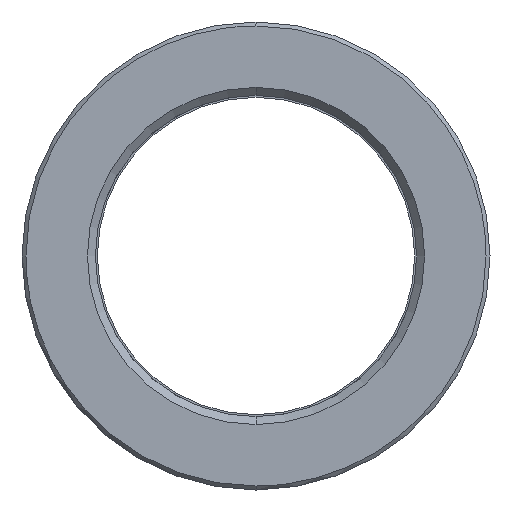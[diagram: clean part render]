
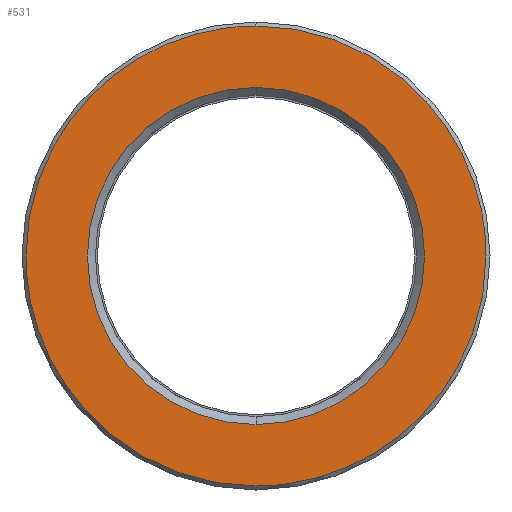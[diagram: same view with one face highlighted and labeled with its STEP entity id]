
A CAD part, left-side view. The second image highlights one B-rep face of the part: STEP entity #531.
In plain terms, the highlighted planar face has unit normal (-1, 0, 0).
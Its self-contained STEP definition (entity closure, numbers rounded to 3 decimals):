
#311=CARTESIAN_POINT('Axis2P3D Location',(0.,0.,0.)) ;
#315=CARTESIAN_POINT('Vertex',(0.,21.25,0.)) ;
#317=CARTESIAN_POINT('Vertex',(0.,0.,21.25)) ;
#320=CARTESIAN_POINT('Axis2P3D Location',(0.,0.,0.)) ;
#324=CARTESIAN_POINT('Vertex',(0.,0.,-21.25)) ;
#351=CARTESIAN_POINT('Axis2P3D Location',(0.,0.,0.)) ;
#355=CARTESIAN_POINT('Vertex',(0.,-21.25,0.)) ;
#358=CARTESIAN_POINT('Axis2P3D Location',(0.,0.,0.)) ;
#438=CARTESIAN_POINT('Axis2P3D Location',(0.,29.,0.)) ;
#444=CARTESIAN_POINT('Control Point',(0.,0.,-29.)) ;
#445=CARTESIAN_POINT('Control Point',(0.,1.442,-29.)) ;
#446=CARTESIAN_POINT('Control Point',(0.,2.884,-28.91)) ;
#447=CARTESIAN_POINT('Control Point',(0.,4.319,-28.731)) ;
#448=CARTESIAN_POINT('Control Point',(0.,8.336,-27.973)) ;
#449=CARTESIAN_POINT('Control Point',(0.,12.177,-26.519)) ;
#450=CARTESIAN_POINT('Control Point',(0.,14.542,-25.299)) ;
#451=CARTESIAN_POINT('Control Point',(0.,18.954,-22.344)) ;
#452=CARTESIAN_POINT('Control Point',(0.,22.589,-18.473)) ;
#453=CARTESIAN_POINT('Control Point',(0.,24.178,-16.338)) ;
#454=CARTESIAN_POINT('Control Point',(0.,26.719,-11.959)) ;
#455=CARTESIAN_POINT('Control Point',(0.,28.26,-7.143)) ;
#456=CARTESIAN_POINT('Control Point',(0.,28.753,-4.784)) ;
#457=CARTESIAN_POINT('Control Point',(0.,29.,-2.392)) ;
#458=CARTESIAN_POINT('Control Point',(0.,29.,0.)) ;
#459=CARTESIAN_POINT('Vertex',(0.,0.,-29.)) ;
#461=CARTESIAN_POINT('Vertex',(0.,29.,0.)) ;
#465=CARTESIAN_POINT('Control Point',(0.,-29.,0.)) ;
#466=CARTESIAN_POINT('Control Point',(0.,-29.,-2.638)) ;
#467=CARTESIAN_POINT('Control Point',(0.,-28.7,-5.276)) ;
#468=CARTESIAN_POINT('Control Point',(0.,-28.1,-7.869)) ;
#469=CARTESIAN_POINT('Control Point',(0.,-26.321,-12.873)) ;
#470=CARTESIAN_POINT('Control Point',(0.,-23.464,-17.349)) ;
#471=CARTESIAN_POINT('Control Point',(0.,-21.786,-19.414)) ;
#472=CARTESIAN_POINT('Control Point',(0.,-17.989,-23.127)) ;
#473=CARTESIAN_POINT('Control Point',(0.,-13.456,-25.893)) ;
#474=CARTESIAN_POINT('Control Point',(0.,-11.041,-27.012)) ;
#475=CARTESIAN_POINT('Control Point',(0.,-7.377,-28.223)) ;
#476=CARTESIAN_POINT('Control Point',(0.,-3.584,-28.815)) ;
#477=CARTESIAN_POINT('Control Point',(0.,-2.392,-28.938)) ;
#478=CARTESIAN_POINT('Control Point',(0.,-1.196,-29.)) ;
#479=CARTESIAN_POINT('Control Point',(0.,0.,-29.)) ;
#480=CARTESIAN_POINT('Vertex',(0.,-29.,0.)) ;
#484=CARTESIAN_POINT('Control Point',(0.,0.,29.)) ;
#485=CARTESIAN_POINT('Control Point',(0.,-1.442,29.)) ;
#486=CARTESIAN_POINT('Control Point',(0.,-2.884,28.91)) ;
#487=CARTESIAN_POINT('Control Point',(0.,-4.319,28.731)) ;
#488=CARTESIAN_POINT('Control Point',(0.,-8.336,27.973)) ;
#489=CARTESIAN_POINT('Control Point',(0.,-12.177,26.519)) ;
#490=CARTESIAN_POINT('Control Point',(0.,-14.542,25.299)) ;
#491=CARTESIAN_POINT('Control Point',(0.,-18.954,22.344)) ;
#492=CARTESIAN_POINT('Control Point',(0.,-22.589,18.473)) ;
#493=CARTESIAN_POINT('Control Point',(0.,-24.178,16.338)) ;
#494=CARTESIAN_POINT('Control Point',(0.,-26.719,11.959)) ;
#495=CARTESIAN_POINT('Control Point',(0.,-28.26,7.143)) ;
#496=CARTESIAN_POINT('Control Point',(0.,-28.753,4.784)) ;
#497=CARTESIAN_POINT('Control Point',(0.,-29.,2.392)) ;
#498=CARTESIAN_POINT('Control Point',(0.,-29.,0.)) ;
#499=CARTESIAN_POINT('Vertex',(0.,0.,29.)) ;
#503=CARTESIAN_POINT('Control Point',(0.,29.,0.)) ;
#504=CARTESIAN_POINT('Control Point',(0.,29.,2.638)) ;
#505=CARTESIAN_POINT('Control Point',(0.,28.7,5.276)) ;
#506=CARTESIAN_POINT('Control Point',(0.,28.1,7.869)) ;
#507=CARTESIAN_POINT('Control Point',(0.,26.321,12.873)) ;
#508=CARTESIAN_POINT('Control Point',(0.,23.464,17.349)) ;
#509=CARTESIAN_POINT('Control Point',(0.,21.786,19.414)) ;
#510=CARTESIAN_POINT('Control Point',(0.,17.989,23.127)) ;
#511=CARTESIAN_POINT('Control Point',(0.,13.456,25.893)) ;
#512=CARTESIAN_POINT('Control Point',(0.,11.041,27.012)) ;
#513=CARTESIAN_POINT('Control Point',(0.,7.377,28.223)) ;
#514=CARTESIAN_POINT('Control Point',(0.,3.584,28.815)) ;
#515=CARTESIAN_POINT('Control Point',(0.,2.392,28.938)) ;
#516=CARTESIAN_POINT('Control Point',(0.,1.196,29.)) ;
#517=CARTESIAN_POINT('Control Point',(0.,0.,29.)) ;
#312=DIRECTION('Axis2P3D Direction',(-1.,0.,0.)) ;
#321=DIRECTION('Axis2P3D Direction',(-1.,0.,0.)) ;
#352=DIRECTION('Axis2P3D Direction',(-1.,0.,0.)) ;
#359=DIRECTION('Axis2P3D Direction',(-1.,0.,0.)) ;
#439=DIRECTION('Axis2P3D Direction',(-1.,0.,0.)) ;
#440=DIRECTION('Axis2P3D XDirection',(0.,0.,1.)) ;
#313=AXIS2_PLACEMENT_3D('Circle Axis2P3D',#311,#312,$) ;
#322=AXIS2_PLACEMENT_3D('Circle Axis2P3D',#320,#321,$) ;
#353=AXIS2_PLACEMENT_3D('Circle Axis2P3D',#351,#352,$) ;
#360=AXIS2_PLACEMENT_3D('Circle Axis2P3D',#358,#359,$) ;
#441=AXIS2_PLACEMENT_3D('Plane Axis2P3D',#438,#439,#440) ;
#520=ORIENTED_EDGE('',*,*,#463,.F.) ;
#521=ORIENTED_EDGE('',*,*,#482,.F.) ;
#522=ORIENTED_EDGE('',*,*,#501,.F.) ;
#523=ORIENTED_EDGE('',*,*,#518,.F.) ;
#526=ORIENTED_EDGE('',*,*,#319,.T.) ;
#527=ORIENTED_EDGE('',*,*,#362,.T.) ;
#528=ORIENTED_EDGE('',*,*,#357,.T.) ;
#529=ORIENTED_EDGE('',*,*,#326,.T.) ;
#530=FACE_BOUND('',#525,.T.) ;
#531=ADVANCED_FACE('553-40X196',(#524,#530),#442,.T.) ;
#443=B_SPLINE_CURVE_WITH_KNOTS('',5,(#444,#445,#446,#447,#448,#449,#450,#451,#452,#453,#454,#455,#456,#457,#458),.UNSPECIFIED.,.F.,.U.,(6,3,3,3,6),(64.421,74.618,93.273,111.928,128.843),.UNSPECIFIED.) ;
#464=B_SPLINE_CURVE_WITH_KNOTS('',5,(#465,#466,#467,#468,#469,#470,#471,#472,#473,#474,#475,#476,#477,#478,#479),.UNSPECIFIED.,.F.,.U.,(6,3,3,3,6),(0.,18.655,37.309,55.964,64.421),.UNSPECIFIED.) ;
#483=B_SPLINE_CURVE_WITH_KNOTS('',5,(#484,#485,#486,#487,#488,#489,#490,#491,#492,#493,#494,#495,#496,#497,#498),.UNSPECIFIED.,.F.,.U.,(6,3,3,3,6),(64.421,74.618,93.273,111.928,128.843),.UNSPECIFIED.) ;
#502=B_SPLINE_CURVE_WITH_KNOTS('',5,(#503,#504,#505,#506,#507,#508,#509,#510,#511,#512,#513,#514,#515,#516,#517),.UNSPECIFIED.,.F.,.U.,(6,3,3,3,6),(0.,18.655,37.309,55.964,64.421),.UNSPECIFIED.) ;
#314=CIRCLE('generated circle',#313,21.25) ;
#323=CIRCLE('generated circle',#322,21.25) ;
#354=CIRCLE('generated circle',#353,21.25) ;
#361=CIRCLE('generated circle',#360,21.25) ;
#319=EDGE_CURVE('',#316,#318,#314,.F.) ;
#326=EDGE_CURVE('',#325,#316,#323,.F.) ;
#357=EDGE_CURVE('',#356,#325,#354,.F.) ;
#362=EDGE_CURVE('',#318,#356,#361,.F.) ;
#463=EDGE_CURVE('',#460,#462,#443,.T.) ;
#482=EDGE_CURVE('',#481,#460,#464,.T.) ;
#501=EDGE_CURVE('',#500,#481,#483,.T.) ;
#518=EDGE_CURVE('',#462,#500,#502,.T.) ;
#519=EDGE_LOOP('',(#520,#521,#522,#523)) ;
#525=EDGE_LOOP('',(#526,#527,#528,#529)) ;
#524=FACE_OUTER_BOUND('',#519,.T.) ;
#442=PLANE('Plane',#441) ;
#316=VERTEX_POINT('',#315) ;
#318=VERTEX_POINT('',#317) ;
#325=VERTEX_POINT('',#324) ;
#356=VERTEX_POINT('',#355) ;
#460=VERTEX_POINT('',#459) ;
#462=VERTEX_POINT('',#461) ;
#481=VERTEX_POINT('',#480) ;
#500=VERTEX_POINT('',#499) ;
